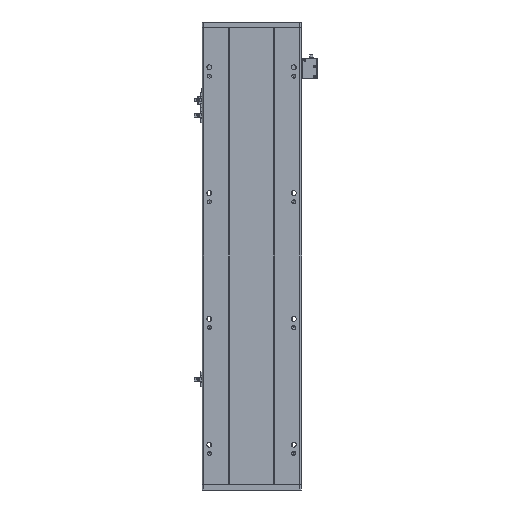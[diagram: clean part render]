
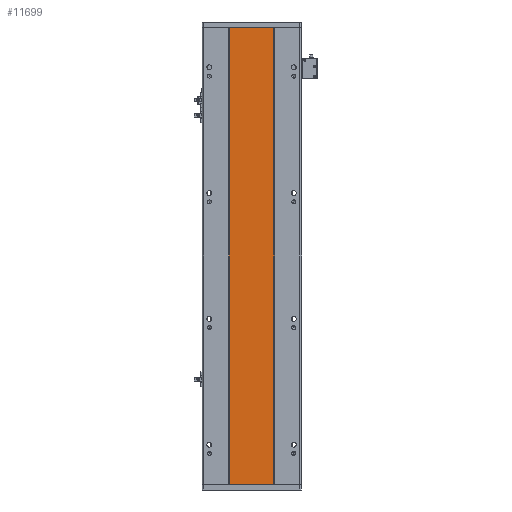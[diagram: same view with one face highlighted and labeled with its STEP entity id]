
A CAD part, front view. The second image highlights one B-rep face of the part: STEP entity #11699.
In plain terms, the highlighted planar face has unit normal (0, -1, 0).
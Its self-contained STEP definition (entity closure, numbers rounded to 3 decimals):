
#232 = VECTOR ( 'NONE', #4504, 1000. ) ;
#515 = ORIENTED_EDGE ( 'NONE', *, *, #14244, .T. ) ;
#751 = CARTESIAN_POINT ( 'NONE',  ( 205.288, 16.9, 784. ) ) ;
#777 = EDGE_CURVE ( 'NONE', #24852, #16453, #13915, .T. ) ;
#1783 = LINE ( 'NONE', #19019, #11986 ) ;
#2624 = LINE ( 'NONE', #9814, #6465 ) ;
#3114 = ORIENTED_EDGE ( 'NONE', *, *, #22988, .F. ) ;
#3338 = DIRECTION ( 'NONE',  ( 1., 0., 0. ) ) ;
#4504 = DIRECTION ( 'NONE',  ( 0., 0., -1. ) ) ;
#6465 = VECTOR ( 'NONE', #3338, 1000. ) ;
#8618 = VERTEX_POINT ( 'NONE', #11435 ) ;
#9621 = VERTEX_POINT ( 'NONE', #22975 ) ;
#9706 = DIRECTION ( 'NONE',  ( 0., 1., 0. ) ) ;
#9814 = CARTESIAN_POINT ( 'NONE',  ( 129.288, 16.9, 784. ) ) ;
#10084 = CARTESIAN_POINT ( 'NONE',  ( 205.288, 16.9, 0. ) ) ;
#11435 = CARTESIAN_POINT ( 'NONE',  ( 129.288, 16.9, 0. ) ) ;
#11699 = ADVANCED_FACE ( 'NONE', ( #12912 ), #14212, .F. ) ;
#11986 = VECTOR ( 'NONE', #25844, 1000. ) ;
#12059 = CARTESIAN_POINT ( 'NONE',  ( 205.288, 16.9, 784. ) ) ;
#12912 = FACE_OUTER_BOUND ( 'NONE', #24696, .T. ) ;
#13915 = LINE ( 'NONE', #22418, #232 ) ;
#14212 = PLANE ( 'NONE',  #23835 ) ;
#14244 = EDGE_CURVE ( 'NONE', #8618, #16453, #20318, .T. ) ;
#14336 = VECTOR ( 'NONE', #20798, 1000. ) ;
#16432 = DIRECTION ( 'NONE',  ( -1., 0., 0. ) ) ;
#16453 = VERTEX_POINT ( 'NONE', #10084 ) ;
#19019 = CARTESIAN_POINT ( 'NONE',  ( 129.288, 16.9, 784. ) ) ;
#19718 = EDGE_CURVE ( 'NONE', #9621, #8618, #1783, .T. ) ;
#20318 = LINE ( 'NONE', #23269, #14336 ) ;
#20798 = DIRECTION ( 'NONE',  ( 1., 0., 0. ) ) ;
#22418 = CARTESIAN_POINT ( 'NONE',  ( 205.288, 16.9, 784. ) ) ;
#22864 = ORIENTED_EDGE ( 'NONE', *, *, #777, .F. ) ;
#22975 = CARTESIAN_POINT ( 'NONE',  ( 129.288, 16.9, 784. ) ) ;
#22988 = EDGE_CURVE ( 'NONE', #9621, #24852, #2624, .T. ) ;
#23269 = CARTESIAN_POINT ( 'NONE',  ( 205.288, 16.9, 0. ) ) ;
#23835 = AXIS2_PLACEMENT_3D ( 'NONE', #751, #9706, #16432 ) ;
#24696 = EDGE_LOOP ( 'NONE', ( #515, #22864, #3114, #27944 ) ) ;
#24852 = VERTEX_POINT ( 'NONE', #12059 ) ;
#25844 = DIRECTION ( 'NONE',  ( 0., 0., -1. ) ) ;
#27944 = ORIENTED_EDGE ( 'NONE', *, *, #19718, .T. ) ;
